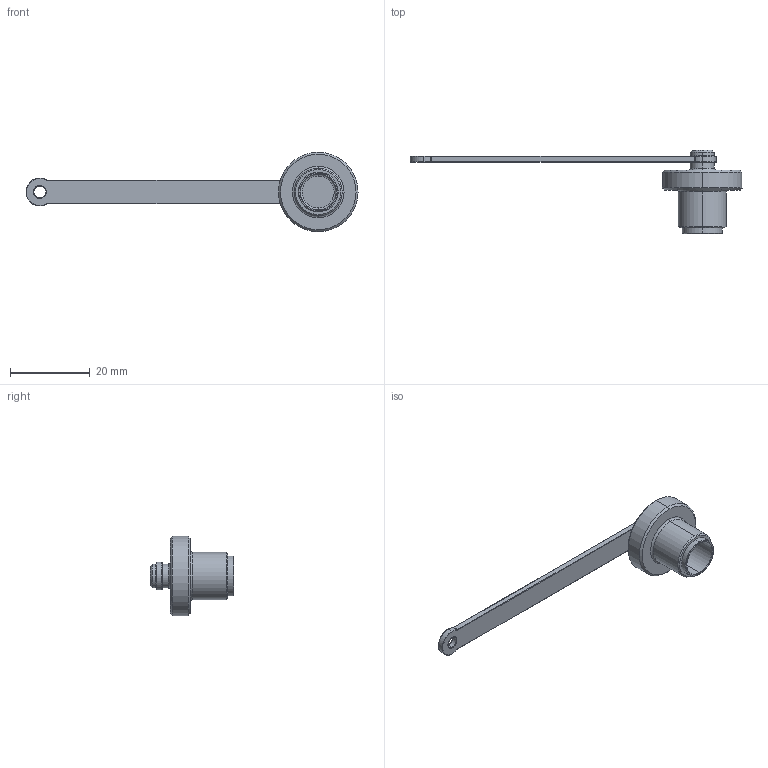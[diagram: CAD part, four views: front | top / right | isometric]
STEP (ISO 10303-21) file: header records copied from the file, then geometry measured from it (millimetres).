
FILE_DESCRIPTION (( 'STEP AP203' ), '1' );
FILE_NAME ('FSK-CC.step', '2014-10-20T20:24:18', ( 'Turck User' ), ( '' ), 'SwSTEP 2.0', 'SolidWorks 2014', '' );
FILE_SCHEMA (( 'CONFIG_CONTROL_DESIGN' ));
Length unit declared in the file: millimetre
Products named in the file (1): FSK-CC
Bounding box: 83.5 x 21 x 20 mm (x, y, z)
Volume: 2795.1 mm3; surface area: 2766 mm2
Topology: 1 solids, 1 shells, 84 faces, 184 edges, 108 vertices
Faces by surface type: cylinder 28, bspline 24, cone 16, plane 10, torus 6
Entity records: 2957 total; most frequent: CARTESIAN_POINT 1131, DIRECTION 380, ORIENTED_EDGE 368, EDGE_CURVE 184, AXIS2_PLACEMENT_3D 165, VERTEX_POINT 108, CIRCLE 104, EDGE_LOOP 92
